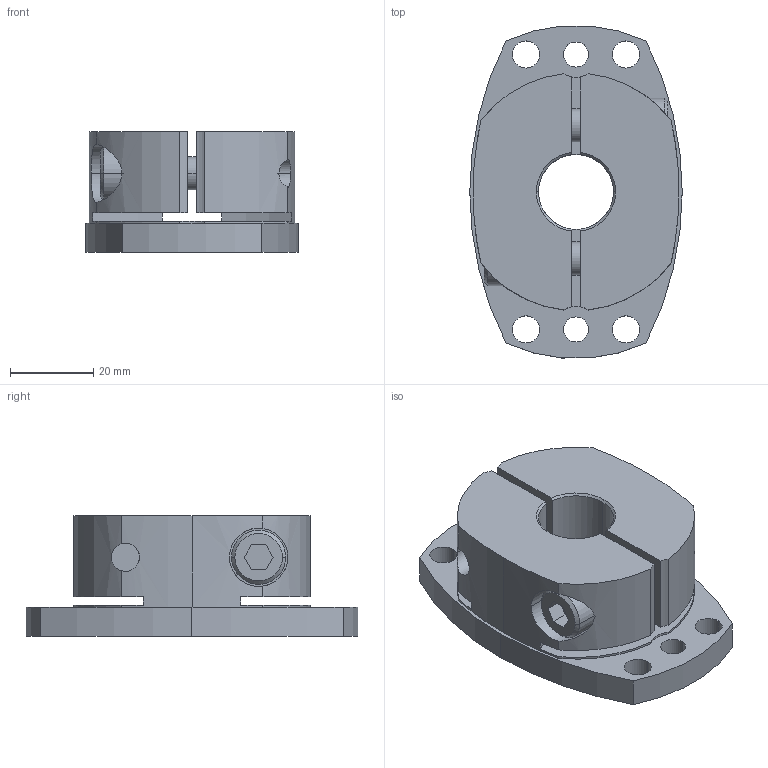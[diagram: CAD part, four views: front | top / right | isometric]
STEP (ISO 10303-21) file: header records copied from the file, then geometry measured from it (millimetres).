
FILE_DESCRIPTION((''),'2;1');
FILE_NAME('SHDB-80B-18.stp','2026-01-28T08:23:27',(''),(''),'AutoCAD STEP 2000i','AutoCAD 2000i',', , ');
FILE_SCHEMA(('CONFIG_CONTROL_DESIGN'));
Length unit declared in the file: millimetre
Products named in the file (2): SHDB-80B-12; 忣兜1
Assembly tree (1 placements, depth 2):
  SHDB-80B-12
    忣兜1
Bounding box: 51 x 79.7 x 29 mm (x, y, z)
Volume: 61831.8 mm3; surface area: 19920 mm2
Topology: 1 solids, 1 shells, 102 faces, 280 edges, 184 vertices
Faces by surface type: cylinder 58, plane 34, cone 10
Entity records: 3707 total; most frequent: CARTESIAN_POINT 880, DIRECTION 602, ORIENTED_EDGE 560, EDGE_CURVE 280, AXIS2_PLACEMENT_3D 238, VERTEX_POINT 184, CIRCLE 134, VECTOR 126
